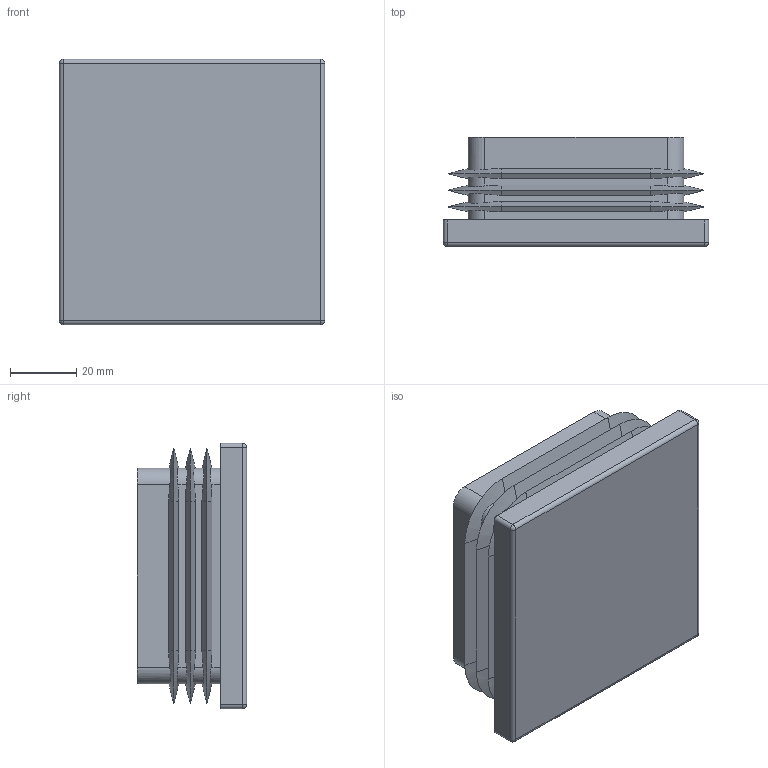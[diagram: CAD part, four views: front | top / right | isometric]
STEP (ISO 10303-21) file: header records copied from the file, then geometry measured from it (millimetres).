
FILE_DESCRIPTION(/* description */ ('END CAP FOR TUBE 500-1030'),/* implementation_level */ '2;1');
FILE_NAME(/* name */ '500-2030.stp',/* time_stamp */ '2022-09-16T10:16:04+02:00',/* author */ ('MD'),/* organization */ ('CARRYLINE'),/* preprocessor_version */ 'ST-DEVELOPER v19.2',/* originating_system */ 'Autodesk Inventor 2023',/* authorisation */ '');
FILE_SCHEMA (('AUTOMOTIVE_DESIGN { 1 0 10303 214 3 1 1 }'));
Length unit declared in the file: millimetre
Products named in the file (1): 500-2030
Bounding box: 80 x 33 x 80 mm (x, y, z)
Volume: 69734 mm3; surface area: 34582.8 mm2
Topology: 1 solids, 1 shells, 108 faces, 280 edges, 172 vertices
Faces by surface type: plane 52, cylinder 28, cone 24, sphere 4
Entity records: 3455 total; most frequent: CARTESIAN_POINT 965, ORIENTED_EDGE 552, DIRECTION 466, EDGE_CURVE 276, VERTEX_POINT 172, LINE 160, VECTOR 160, AXIS2_PLACEMENT_3D 153
